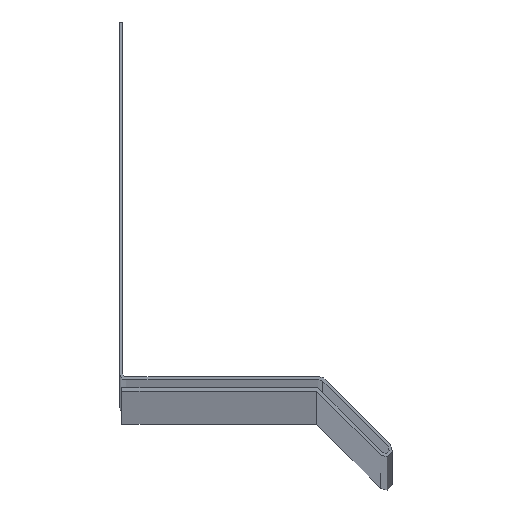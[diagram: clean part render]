
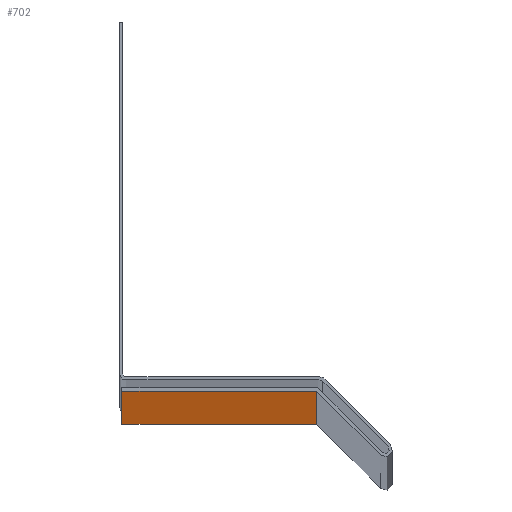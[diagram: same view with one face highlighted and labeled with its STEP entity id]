
A CAD part, top view. The second image highlights one B-rep face of the part: STEP entity #702.
In plain terms, the highlighted planar face has unit normal (0, -1, 0).
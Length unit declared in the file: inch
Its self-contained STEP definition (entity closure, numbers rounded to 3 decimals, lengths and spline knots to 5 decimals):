
#5 = VECTOR ( 'NONE', #182, 39.37008 ) ;
#9 = VECTOR ( 'NONE', #477, 39.37008 ) ;
#29 = LINE ( 'NONE', #455, #56 ) ;
#56 = VECTOR ( 'NONE', #133, 39.37008 ) ;
#60 = EDGE_CURVE ( 'NONE', #511, #111, #336, .T. ) ;
#111 = VERTEX_POINT ( 'NONE', #258 ) ;
#114 = VERTEX_POINT ( 'NONE', #338 ) ;
#133 = DIRECTION ( 'NONE',  ( 0., 0., -1. ) ) ;
#182 = DIRECTION ( 'NONE',  ( -1., 0., 0. ) ) ;
#206 = LINE ( 'NONE', #341, #5 ) ;
#211 = CARTESIAN_POINT ( 'NONE',  ( 1.23757, -0.07, 120. ) ) ;
#245 = CARTESIAN_POINT ( 'NONE',  ( 0.0143, -0.07, 120. ) ) ;
#258 = CARTESIAN_POINT ( 'NONE',  ( 0.0143, -0.07, 0. ) ) ;
#288 = VECTOR ( 'NONE', #772, 39.37008 ) ;
#305 = AXIS2_PLACEMENT_3D ( 'NONE', #211, #421, #466 ) ;
#311 = CARTESIAN_POINT ( 'NONE',  ( 1.23757, -0.07, 0. ) ) ;
#335 = VERTEX_POINT ( 'NONE', #311 ) ;
#336 = LINE ( 'NONE', #245, #288 ) ;
#338 = CARTESIAN_POINT ( 'NONE',  ( 1.23757, -0.07, 120. ) ) ;
#341 = CARTESIAN_POINT ( 'NONE',  ( 1.23757, -0.07, 0. ) ) ;
#411 = ORIENTED_EDGE ( 'NONE', *, *, #432, .T. ) ;
#421 = DIRECTION ( 'NONE',  ( 0., -1., 0. ) ) ;
#432 = EDGE_CURVE ( 'NONE', #114, #511, #465, .T. ) ;
#449 = PLANE ( 'NONE',  #305 ) ;
#455 = CARTESIAN_POINT ( 'NONE',  ( 1.23757, -0.07, 120. ) ) ;
#465 = LINE ( 'NONE', #797, #9 ) ;
#466 = DIRECTION ( 'NONE',  ( 1., 0., 0. ) ) ;
#477 = DIRECTION ( 'NONE',  ( -1., 0., 0. ) ) ;
#511 = VERTEX_POINT ( 'NONE', #741 ) ;
#528 = FACE_OUTER_BOUND ( 'NONE', #738, .T. ) ;
#609 = EDGE_CURVE ( 'NONE', #335, #111, #206, .T. ) ;
#674 = ORIENTED_EDGE ( 'NONE', *, *, #60, .T. ) ;
#700 = ORIENTED_EDGE ( 'NONE', *, *, #609, .F. ) ;
#702 = ADVANCED_FACE ( 'NONE', ( #528 ), #449, .T. ) ;
#738 = EDGE_LOOP ( 'NONE', ( #700, #756, #411, #674 ) ) ;
#741 = CARTESIAN_POINT ( 'NONE',  ( 0.0143, -0.07, 120. ) ) ;
#756 = ORIENTED_EDGE ( 'NONE', *, *, #778, .F. ) ;
#772 = DIRECTION ( 'NONE',  ( 0., 0., -1. ) ) ;
#778 = EDGE_CURVE ( 'NONE', #114, #335, #29, .T. ) ;
#797 = CARTESIAN_POINT ( 'NONE',  ( 1.23757, -0.07, 120. ) ) ;
